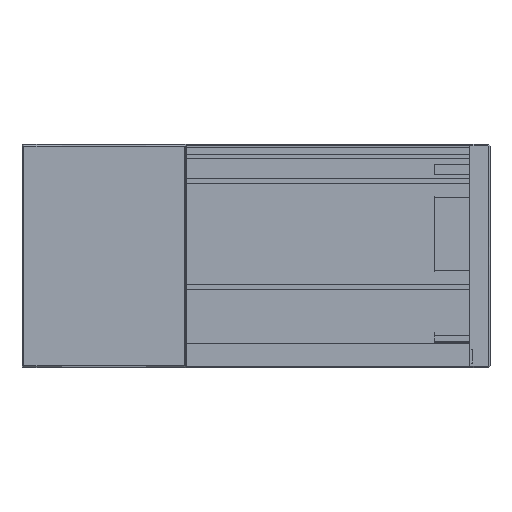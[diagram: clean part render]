
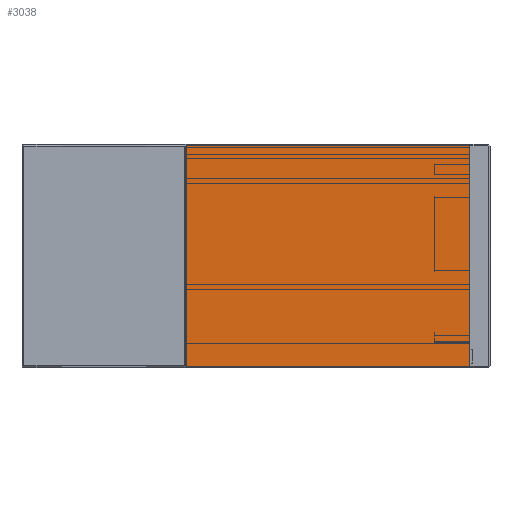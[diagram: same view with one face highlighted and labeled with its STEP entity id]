
A CAD part, front view. The second image highlights one B-rep face of the part: STEP entity #3038.
In plain terms, the highlighted free-form (B-spline) face has degree [2, 1] with [3, 2] control points.
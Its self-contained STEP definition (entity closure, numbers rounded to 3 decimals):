
#3038=ADVANCED_FACE('',(#6231),#115271,.T.);
#6231=FACE_OUTER_BOUND('',#9553,.T.);
#9553=EDGE_LOOP('',(#25440,#25441,#25442,#25443));
#25440=ORIENTED_EDGE('',*,*,#102572,.F.);
#25441=ORIENTED_EDGE('',*,*,#102701,.T.);
#25442=ORIENTED_EDGE('',*,*,#102702,.T.);
#25443=ORIENTED_EDGE('',*,*,#102699,.F.);
#42786=PCURVE('',#115049,#60388);
#43039=PCURVE('',#115270,#60641);
#43042=PCURVE('',#115271,#60644);
#43043=PCURVE('',#115271,#60645);
#43044=PCURVE('',#115271,#60646);
#43045=PCURVE('',#115271,#60647);
#43049=PCURVE('',#115272,#60651);
#43511=PCURVE('',#114092,#61113);
#60388=DEFINITIONAL_REPRESENTATION('',(#83905),#258552);
#60641=DEFINITIONAL_REPRESENTATION('',(#84202),#258552);
#60644=DEFINITIONAL_REPRESENTATION('',(#84205),#258552);
#60645=DEFINITIONAL_REPRESENTATION('',(#84206),#258552);
#60646=DEFINITIONAL_REPRESENTATION('',(#84207),#258552);
#60647=DEFINITIONAL_REPRESENTATION('',(#84208),#258552);
#60651=DEFINITIONAL_REPRESENTATION('',(#84212),#258552);
#61113=DEFINITIONAL_REPRESENTATION('',(#105791),#258552);
#83904=B_SPLINE_CURVE_WITH_KNOTS('',1,(#247319,#247320),.UNSPECIFIED.,.F.,
 .F.,(2,2),(104.193,178.193),.UNSPECIFIED.);
#83905=B_SPLINE_CURVE_WITH_KNOTS('',1,(#247321,#247322),.UNSPECIFIED.,.F.,
 .F.,(2,2),(104.193,178.193),.UNSPECIFIED.);
#84202=B_SPLINE_CURVE_WITH_KNOTS('',1,(#248549,#248550),.UNSPECIFIED.,.F.,
 .F.,(2,2),(150.,245.),.UNSPECIFIED.);
#84205=B_SPLINE_CURVE_WITH_KNOTS('',1,(#248558,#248559),.UNSPECIFIED.,.F.,
 .F.,(2,2),(104.193,178.193),.UNSPECIFIED.);
#84206=B_SPLINE_CURVE_WITH_KNOTS('',1,(#248562,#248563),.UNSPECIFIED.,.F.,
 .F.,(2,2),(150.,245.),.UNSPECIFIED.);
#84207=B_SPLINE_CURVE_WITH_KNOTS('',1,(#248567,#248568),.UNSPECIFIED.,.F.,
 .F.,(2,2),(643.589,717.589),.UNSPECIFIED.);
#84208=B_SPLINE_CURVE_WITH_KNOTS('',1,(#248569,#248570),.UNSPECIFIED.,.F.,
 .F.,(2,2),(150.,245.),.UNSPECIFIED.);
#84212=B_SPLINE_CURVE_WITH_KNOTS('',1,(#248590,#248591),.UNSPECIFIED.,.F.,
 .F.,(2,2),(150.,245.),.UNSPECIFIED.);
#93771=SURFACE_CURVE('',#83904,(#42786,#43042),.PCURVE_S1.);
#93898=SURFACE_CURVE('',#105541,(#43039,#43045),.PCURVE_S1.);
#93900=SURFACE_CURVE('',#105543,(#43043,#43049),.PCURVE_S1.);
#93901=SURFACE_CURVE('',#105544,(#43044,#43511),.PCURVE_S1.);
#102572=EDGE_CURVE('',#111729,#111727,#93771,.T.);
#102699=EDGE_CURVE('',#111727,#111923,#93898,.T.);
#102701=EDGE_CURVE('',#111729,#111924,#93900,.T.);
#102702=EDGE_CURVE('',#111924,#111923,#93901,.T.);
#105541=(
BOUNDED_CURVE()
B_SPLINE_CURVE(1,(#248547,#248548),.UNSPECIFIED.,.F.,.F.)
B_SPLINE_CURVE_WITH_KNOTS((2,2),(150.,245.),.UNSPECIFIED.)
CURVE()
GEOMETRIC_REPRESENTATION_ITEM()
RATIONAL_B_SPLINE_CURVE((1.,1.))
REPRESENTATION_ITEM('')
);
#105543=(
BOUNDED_CURVE()
B_SPLINE_CURVE(1,(#248560,#248561),.UNSPECIFIED.,.F.,.F.)
B_SPLINE_CURVE_WITH_KNOTS((2,2),(150.,245.),.UNSPECIFIED.)
CURVE()
GEOMETRIC_REPRESENTATION_ITEM()
RATIONAL_B_SPLINE_CURVE((1.,1.))
REPRESENTATION_ITEM('')
);
#105544=(
BOUNDED_CURVE()
B_SPLINE_CURVE(2,(#248564,#248565,#248566),.UNSPECIFIED.,.F.,.F.)
B_SPLINE_CURVE_WITH_KNOTS((3,3),(643.589,717.589),
 .UNSPECIFIED.)
CURVE()
GEOMETRIC_REPRESENTATION_ITEM()
RATIONAL_B_SPLINE_CURVE((1.,1.,1.))
REPRESENTATION_ITEM('')
);
#105791=(
BOUNDED_CURVE()
B_SPLINE_CURVE(2,(#250658,#250659,#250660),.UNSPECIFIED.,.F.,.F.)
B_SPLINE_CURVE_WITH_KNOTS((3,3),(643.589,717.589),
 .UNSPECIFIED.)
CURVE()
GEOMETRIC_REPRESENTATION_ITEM()
RATIONAL_B_SPLINE_CURVE((1.,1.,1.))
REPRESENTATION_ITEM('')
);
#111727=VERTEX_POINT('',#242916);
#111729=VERTEX_POINT('',#242918);
#111923=VERTEX_POINT('',#243112);
#111924=VERTEX_POINT('',#243113);
#114092=B_SPLINE_SURFACE_WITH_KNOTS('',1,1,((#242549,#242550),(#242551,
#242552)),.UNSPECIFIED.,.F.,.F.,.F.,(2,2),(2,2),(-52.575,16.175),
(-34.998,58.752),.UNSPECIFIED.);
#115049=(
BOUNDED_SURFACE()
B_SPLINE_SURFACE(2,1,((#239533,#239534),(#239535,#239536),(#239537,#239538)),
 .UNSPECIFIED.,.F.,.F.,.F.)
B_SPLINE_SURFACE_WITH_KNOTS((3,3),(2,2),(-717.589,-643.589),
(0.,245.),.UNSPECIFIED.)
GEOMETRIC_REPRESENTATION_ITEM()
RATIONAL_B_SPLINE_SURFACE(((1.,1.),(1.,1.),(1.,1.)))
REPRESENTATION_ITEM('')
SURFACE()
);
#115270=(
BOUNDED_SURFACE()
B_SPLINE_SURFACE(2,1,((#241103,#241104),(#241105,#241106),(#241107,#241108)),
 .UNSPECIFIED.,.F.,.F.,.F.)
B_SPLINE_SURFACE_WITH_KNOTS((3,3),(2,2),(-718.374,-717.589),
(0.,245.),.UNSPECIFIED.)
GEOMETRIC_REPRESENTATION_ITEM()
RATIONAL_B_SPLINE_SURFACE(((1.,1.),(0.707,0.707),
(1.,1.)))
REPRESENTATION_ITEM('')
SURFACE()
);
#115271=(
BOUNDED_SURFACE()
B_SPLINE_SURFACE(2,1,((#241109,#241110),(#241111,#241112),(#241113,#241114)),
 .UNSPECIFIED.,.F.,.F.,.F.)
B_SPLINE_SURFACE_WITH_KNOTS((3,3),(2,2),(-717.589,-643.589),
(0.,245.),.UNSPECIFIED.)
GEOMETRIC_REPRESENTATION_ITEM()
RATIONAL_B_SPLINE_SURFACE(((1.,1.),(1.,1.),(1.,1.)))
REPRESENTATION_ITEM('')
SURFACE()
);
#115272=(
BOUNDED_SURFACE()
B_SPLINE_SURFACE(2,1,((#241115,#241116),(#241117,#241118),(#241119,#241120)),
 .UNSPECIFIED.,.F.,.F.,.F.)
B_SPLINE_SURFACE_WITH_KNOTS((3,3),(2,2),(-643.589,-642.804),
(0.,245.),.UNSPECIFIED.)
GEOMETRIC_REPRESENTATION_ITEM()
RATIONAL_B_SPLINE_SURFACE(((1.,1.),(0.707,0.707),
(1.,1.)))
REPRESENTATION_ITEM('')
SURFACE()
);
#239533=CARTESIAN_POINT('',(27.5,-122.5,74.5));
#239534=CARTESIAN_POINT('',(27.5,122.5,74.5));
#239535=CARTESIAN_POINT('',(27.5,-122.5,37.5));
#239536=CARTESIAN_POINT('',(27.5,122.5,37.5));
#239537=CARTESIAN_POINT('',(27.5,-122.5,0.5));
#239538=CARTESIAN_POINT('',(27.5,122.5,0.5));
#241103=CARTESIAN_POINT('',(-122.5,-27.,75.));
#241104=CARTESIAN_POINT('',(122.5,-27.,75.));
#241105=CARTESIAN_POINT('',(-122.5,-27.5,75.));
#241106=CARTESIAN_POINT('',(122.5,-27.5,75.));
#241107=CARTESIAN_POINT('',(-122.5,-27.5,74.5));
#241108=CARTESIAN_POINT('',(122.5,-27.5,74.5));
#241109=CARTESIAN_POINT('',(-122.5,-27.5,74.5));
#241110=CARTESIAN_POINT('',(122.5,-27.5,74.5));
#241111=CARTESIAN_POINT('',(-122.5,-27.5,37.5));
#241112=CARTESIAN_POINT('',(122.5,-27.5,37.5));
#241113=CARTESIAN_POINT('',(-122.5,-27.5,0.5));
#241114=CARTESIAN_POINT('',(122.5,-27.5,0.5));
#241115=CARTESIAN_POINT('',(-122.5,-27.5,0.5));
#241116=CARTESIAN_POINT('',(122.5,-27.5,0.5));
#241117=CARTESIAN_POINT('',(-122.5,-27.5,0.));
#241118=CARTESIAN_POINT('',(122.5,-27.5,0.));
#241119=CARTESIAN_POINT('',(-122.5,-27.,0.));
#241120=CARTESIAN_POINT('',(122.5,-27.,0.));
#242549=CARTESIAN_POINT('',(122.5,-34.375,-9.375));
#242550=CARTESIAN_POINT('',(122.5,-34.375,84.375));
#242551=CARTESIAN_POINT('',(122.5,34.375,-9.375));
#242552=CARTESIAN_POINT('',(122.5,34.375,84.375));
#242916=CARTESIAN_POINT('',(27.5,-27.5,74.5));
#242918=CARTESIAN_POINT('',(27.5,-27.5,0.5));
#243112=CARTESIAN_POINT('',(122.5,-27.5,74.5));
#243113=CARTESIAN_POINT('',(122.5,-27.5,0.5));
#247319=CARTESIAN_POINT('',(27.5,-27.5,0.5));
#247320=CARTESIAN_POINT('',(27.5,-27.5,74.5));
#247321=CARTESIAN_POINT('',(-643.589,95.));
#247322=CARTESIAN_POINT('',(-717.589,95.));
#248547=CARTESIAN_POINT('',(27.5,-27.5,74.5));
#248548=CARTESIAN_POINT('',(122.5,-27.5,74.5));
#248549=CARTESIAN_POINT('',(-717.589,150.));
#248550=CARTESIAN_POINT('',(-717.589,245.));
#248558=CARTESIAN_POINT('',(-643.589,150.));
#248559=CARTESIAN_POINT('',(-717.589,150.));
#248560=CARTESIAN_POINT('',(27.5,-27.5,0.5));
#248561=CARTESIAN_POINT('',(122.5,-27.5,0.5));
#248562=CARTESIAN_POINT('',(-643.589,150.));
#248563=CARTESIAN_POINT('',(-643.589,245.));
#248564=CARTESIAN_POINT('',(122.5,-27.5,0.5));
#248565=CARTESIAN_POINT('',(122.5,-27.5,37.5));
#248566=CARTESIAN_POINT('',(122.5,-27.5,74.5));
#248567=CARTESIAN_POINT('',(-643.589,245.));
#248568=CARTESIAN_POINT('',(-717.589,245.));
#248569=CARTESIAN_POINT('',(-717.589,150.));
#248570=CARTESIAN_POINT('',(-717.589,245.));
#248590=CARTESIAN_POINT('',(-643.589,150.));
#248591=CARTESIAN_POINT('',(-643.589,245.));
#250658=CARTESIAN_POINT('',(-45.7,-25.123));
#250659=CARTESIAN_POINT('',(-45.7,11.877));
#250660=CARTESIAN_POINT('',(-45.7,48.877));
#258552=(
GEOMETRIC_REPRESENTATION_CONTEXT(2)
PARAMETRIC_REPRESENTATION_CONTEXT()
REPRESENTATION_CONTEXT('pspace','')
);
